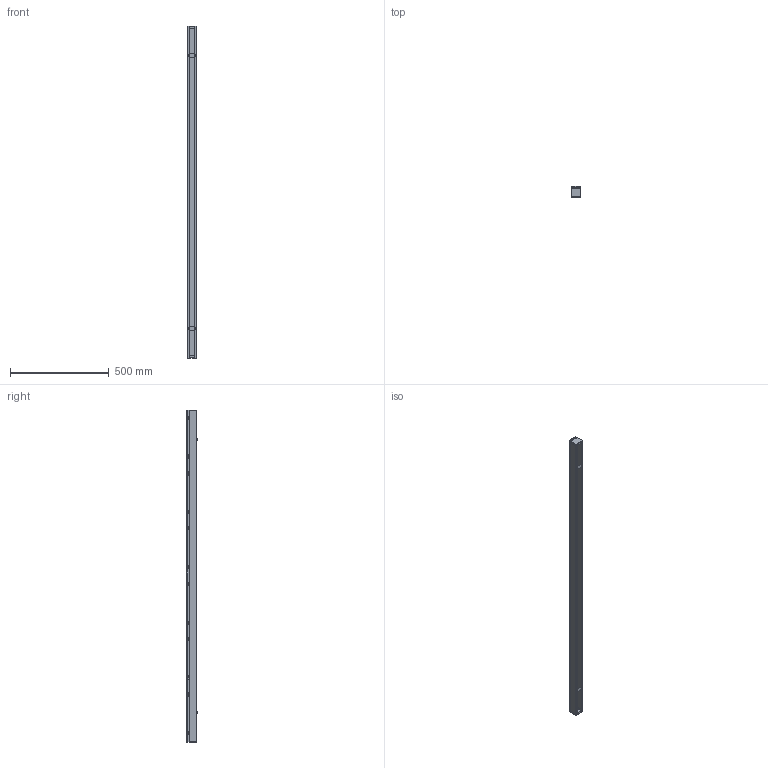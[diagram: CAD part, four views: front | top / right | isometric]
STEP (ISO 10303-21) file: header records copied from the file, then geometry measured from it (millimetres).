
FILE_DESCRIPTION(/* description */ (''),/* implementation_level */ '2;1');
FILE_NAME(/* name */ 'GDO_TRACK_GDT16.stp',/* time_stamp */ '2025-09-11T09:15:20+02:00',/* author */ ('gian.noche'),/* organization */ (''),/* preprocessor_version */ 'ST-DEVELOPER v19.2',/* originating_system */ 'Autodesk Inventor 2023',/* authorisation */ '');
FILE_SCHEMA (('AUTOMOTIVE_DESIGN { 1 0 10303 214 3 1 1 }'));
Length unit declared in the file: millimetre
Products named in the file (1): GDO_TRACK_1680_Semplifica_1
Bounding box: 50 x 53.1 x 1681.6 mm (x, y, z)
Volume: 538508.2 mm3; surface area: 723412 mm2
Topology: 1 solids, 1 shells, 1341 faces, 3757 edges, 2416 vertices
Faces by surface type: plane 771, cylinder 476, bspline 64, cone 18, torus 12
Full cylindrical faces by diameter (mm): 1.7 x8, 8 x4
Entity records: 48434 total; most frequent: CARTESIAN_POINT 13626, ORIENTED_EDGE 7514, DIRECTION 7052, EDGE_CURVE 3757, LINE 2596, VECTOR 2596, VERTEX_POINT 2416, AXIS2_PLACEMENT_3D 2228
